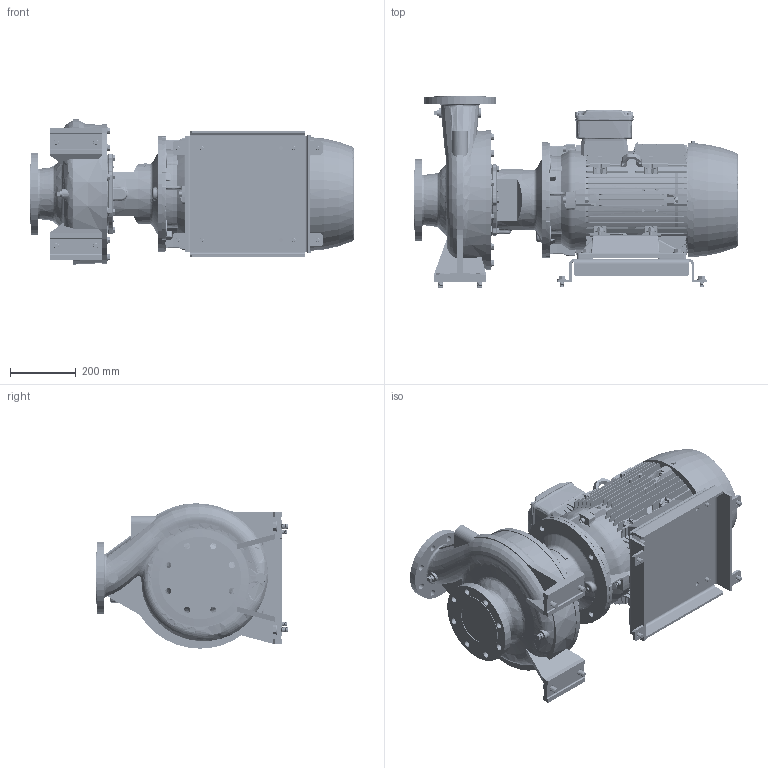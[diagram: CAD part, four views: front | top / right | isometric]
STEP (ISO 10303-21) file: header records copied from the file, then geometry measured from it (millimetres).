
FILE_DESCRIPTION (( 'STEP AP214' ), '1' );
FILE_NAME ('GSD4 100-315_18.5 & 22_(180ML)_W21.STEP', '2026-07-01T05:27:30', ( '' ), ( '' ), 'SwSTEP 2.0', 'SolidWorks 2024', '' );
FILE_SCHEMA (( 'AUTOMOTIVE_DESIGN' ));
Length unit declared in the file: millimetre
Products named in the file (12): GSD4 100-315_18.5 & 22_(180ML)_W21; Parametric bolt and washer_SFT-A353B; Parametric bolt_SFT-A305B; 100-315-180M_L_ﾃﾞﾌｫﾙﾄ; Parametric bolt_SFT-A353B; Parametric bolt_SFT-A297B; Parametric Flat Washer_M16; CGS11-5263; Parametric bolt and washer_SFT-A297B; Parametric bolt and washer_SFT-A305B; 180M_L ALIE3_W21T_B35; Parametric Flat Washer_M12
Assembly tree (21 placements, depth 3):
  GSD4 100-315_18.5 & 22_(180ML)_W21
    100-315-180M_L_ﾃﾞﾌｫﾙﾄ
    CGS11-5263
    Parametric bolt and washer_SFT-A353B  x4
      Parametric bolt_SFT-A353B
      Parametric Flat Washer_M16
    Parametric bolt and washer_SFT-A297B  x4
      Parametric bolt_SFT-A297B
      Parametric Flat Washer_M12
    Parametric bolt and washer_SFT-A305B  x4
      Parametric bolt_SFT-A305B
      Parametric Flat Washer_M12
    180M_L ALIE3_W21T_B35
Bounding box: 984.8 x 581 x 441.56 mm (x, y, z)
Volume: 75301406.4 mm3; surface area: 4120659.4 mm2
Topology: 59 solids, 59 shells, 6747 faces, 17480 edges, 11303 vertices
Faces by surface type: plane 3960, cylinder 1307, cone 677, bspline 500, torus 287, sphere 16
Entity records: 263173 total; most frequent: CARTESIAN_POINT 118406, ORIENTED_EDGE 31952, DIRECTION 26734, EDGE_CURVE 15976, VERTEX_POINT 10334, VECTOR 9866, LINE 9866, AXIS2_PLACEMENT_3D 8434
